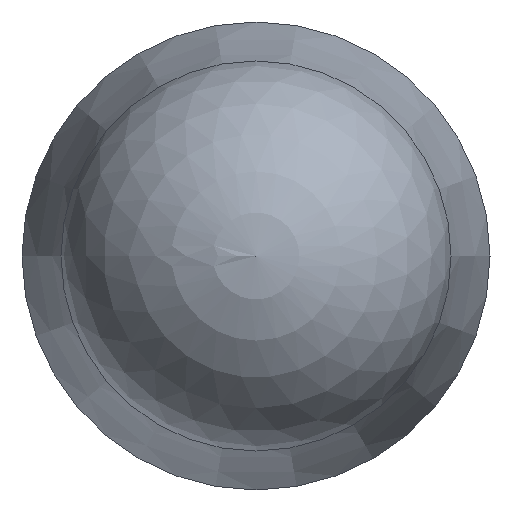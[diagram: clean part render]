
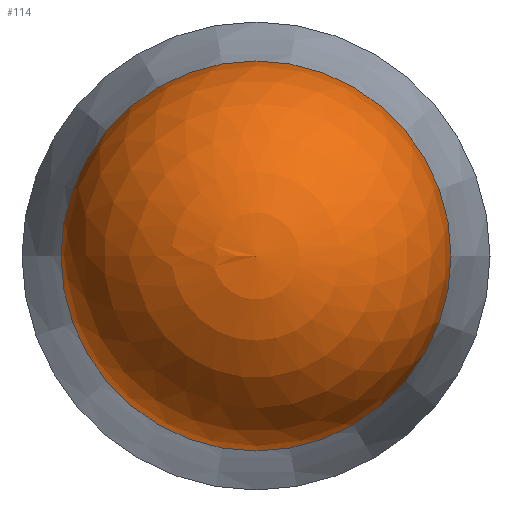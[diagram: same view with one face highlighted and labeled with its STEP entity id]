
A CAD part, left-side view. The second image highlights one B-rep face of the part: STEP entity #114.
In plain terms, the highlighted spherical face has radius 2.5 mm.
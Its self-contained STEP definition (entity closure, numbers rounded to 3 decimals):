
#112=SPHERICAL_SURFACE('',#182,2.5);
#114=ADVANCED_FACE('',(#126),#112,.T.);
#126=FACE_OUTER_BOUND('',#130,.T.);
#130=EDGE_LOOP('',(#144));
#144=ORIENTED_EDGE('',*,*,#165,.T.);
#158=VERTEX_POINT('',#234);
#165=EDGE_CURVE('',#158,#158,#172,.T.);
#172=CIRCLE('',#181,2.5);
#181=AXIS2_PLACEMENT_3D('',#233,#201,#202);
#182=AXIS2_PLACEMENT_3D('',#235,#203,#204);
#201=DIRECTION('',(-1.,0.,0.));
#202=DIRECTION('',(0.,-1.,0.));
#203=DIRECTION('',(-1.,0.,0.));
#204=DIRECTION('',(0.,1.,0.));
#233=CARTESIAN_POINT('',(7890.348,6117.77,0.));
#234=CARTESIAN_POINT('',(7890.348,6115.27,0.));
#235=CARTESIAN_POINT('',(7890.348,6117.77,0.));
